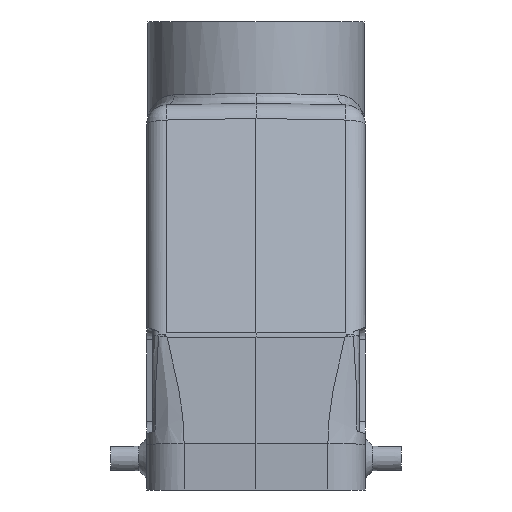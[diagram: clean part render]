
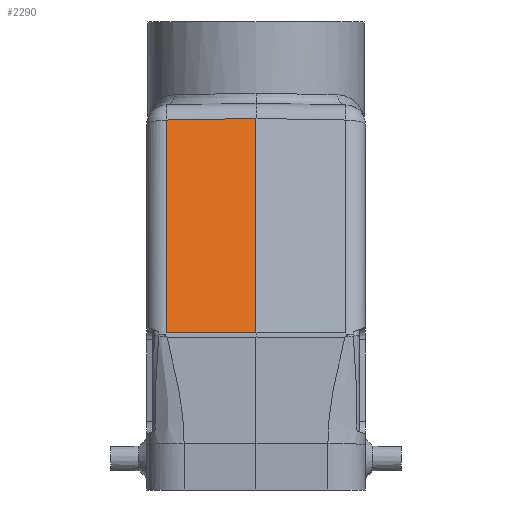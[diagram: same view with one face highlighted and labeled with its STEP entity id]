
A CAD part, left-side view. The second image highlights one B-rep face of the part: STEP entity #2290.
In plain terms, the highlighted planar face has unit normal (-0.966, 0.018, 0.259).
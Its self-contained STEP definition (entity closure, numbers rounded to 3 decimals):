
#844=PLANE('',#5855);
#1184=LINE('',#8327,#1629);
#1185=LINE('',#8330,#1630);
#1186=LINE('',#8332,#1631);
#1187=LINE('',#8334,#1632);
#1629=VECTOR('',#6607,1.);
#1630=VECTOR('',#6608,1.);
#1631=VECTOR('',#6609,1.);
#1632=VECTOR('',#6610,1.);
#1944=FACE_OUTER_BOUND('',#2751,.T.);
#2290=ADVANCED_FACE('',(#1944),#844,.T.);
#2751=EDGE_LOOP('',(#3378,#3379,#3380,#3381));
#3378=ORIENTED_EDGE('',*,*,#5216,.T.);
#3379=ORIENTED_EDGE('',*,*,#5217,.T.);
#3380=ORIENTED_EDGE('',*,*,#5218,.T.);
#3381=ORIENTED_EDGE('',*,*,#5219,.T.);
#4706=VERTEX_POINT('',#8328);
#4707=VERTEX_POINT('',#8329);
#4708=VERTEX_POINT('',#8331);
#4709=VERTEX_POINT('',#8333);
#5216=EDGE_CURVE('',#4706,#4707,#1184,.T.);
#5217=EDGE_CURVE('',#4707,#4708,#1185,.T.);
#5218=EDGE_CURVE('',#4708,#4709,#1186,.T.);
#5219=EDGE_CURVE('',#4709,#4706,#1187,.T.);
#5855=AXIS2_PLACEMENT_3D('',#8335,#6611,#6612);
#6607=DIRECTION('',(-0.259,0.,-0.966));
#6608=DIRECTION('',(-0.017,-1.,0.003));
#6609=DIRECTION('',(0.259,0.,0.966));
#6610=DIRECTION('',(0.013,1.,-0.017));
#6611=DIRECTION('',(-0.966,0.017,0.259));
#6612=DIRECTION('',(0.259,0.,0.966));
#8327=CARTESIAN_POINT('',(-58.204,17.57,21.271));
#8328=CARTESIAN_POINT('',(-46.867,17.57,63.579));
#8329=CARTESIAN_POINT('',(-58.072,17.57,21.763));
#8330=CARTESIAN_POINT('',(-58.376,-0.001,21.814));
#8331=CARTESIAN_POINT('',(-58.376,0.,21.814));
#8332=CARTESIAN_POINT('',(-58.5,0.,21.35));
#8333=CARTESIAN_POINT('',(-47.103,0.,63.886));
#8334=CARTESIAN_POINT('',(-47.095,0.59,63.875));
#8335=CARTESIAN_POINT('',(-58.5,0.,21.35));
